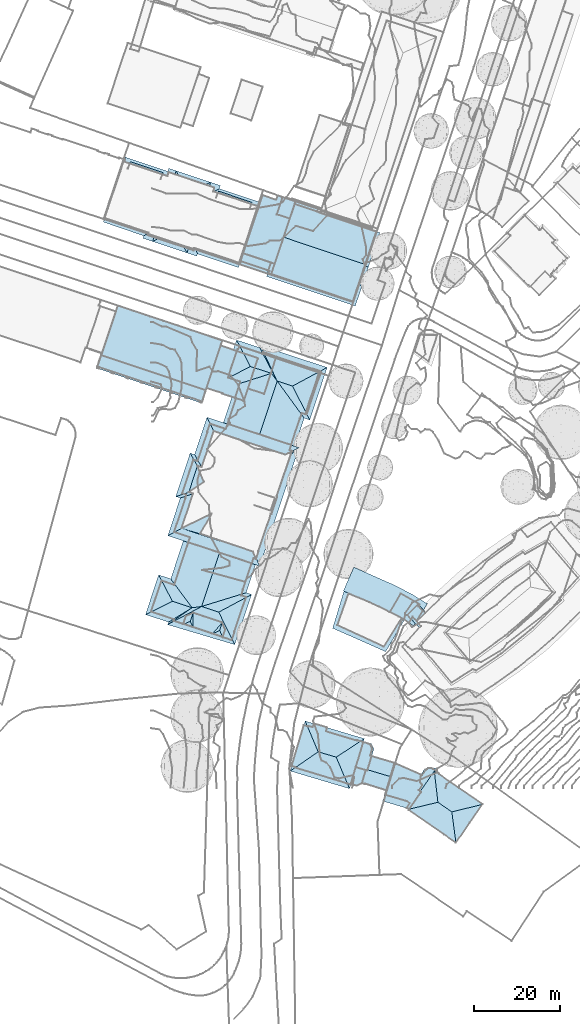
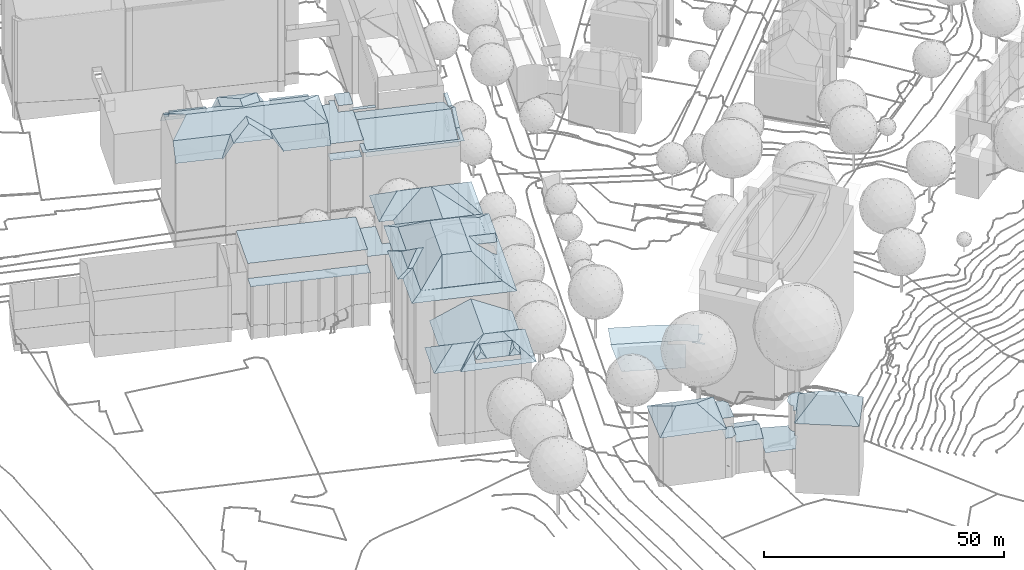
# Not in any storey, part 59 of 494: 22 roofs.
"""IFC2X3 model written with IfcOpenShell, lengths in metres."""

import ifcopenshell
import ifcopenshell.guid

model = None  # the IFC model being written
_history = None  # IfcOwnerHistory: only IFC2X3 demands one
_inside = {}  # id of a spatial element -> (the spatial element, [elements in it])
_under = {}  # id of a project, library or spatial element -> (it, [spatial elements below it])
_declared = {}  # id of a project -> (the project, [libraries it declares])
_typed = {}  # id of a type object -> (the type object, [elements of that type])
_made_of = {}  # id of a material, layer set ... -> (it, [elements and type objects made of it])


def new_model(schema):
    """Start an empty IFC model of exactly this schema.

    Asked for "IFC4X3", IfcOpenShell would pick the latest addendum, in which some entities
    have other attributes; the version numbers below select the first issue.
    IFC2X3 requires an IfcOwnerHistory on every rooted entity: one is made here for all.
    """
    global model, _history
    if schema == "IFC4X3":
        model = ifcopenshell.file(schema_version=(4, 3, 0, 0))
    else:
        model = ifcopenshell.file(schema=schema)
    _inside.clear()
    _under.clear()
    _declared.clear()
    _typed.clear()
    _made_of.clear()
    _history = None
    if model.schema == "IFC2X3":
        org = make("IfcOrganization", Name="unknown")
        user = make(
            "IfcPersonAndOrganization",
            ThePerson=make("IfcPerson", FamilyName="unknown"),
            TheOrganization=org,
        )
        app = make(
            "IfcApplication",
            ApplicationDeveloper=org,
            Version="unknown",
            ApplicationFullName="unknown",
            ApplicationIdentifier="unknown",
        )
        _history = make(
            "IfcOwnerHistory",
            OwningUser=user,
            OwningApplication=app,
            ChangeAction="ADDED",
            CreationDate=0,
        )
    return model


def make(cls, **values):
    """One entity of the class cls with the attributes given. An attribute that is None is left unset."""
    return model.create_entity(
        cls, **{name: value for name, value in values.items() if value is not None}
    )


def rooted(cls, **values):
    """An entity with a GlobalId (a new one), such as an element, a storey or a relation."""
    return make(cls, GlobalId=ifcopenshell.guid.new(), OwnerHistory=_history, **values)


def si_unit(unit_type, name, prefix=None):
    """IfcSIUnit, for example si_unit("LENGTHUNIT", "METRE", prefix="MILLI")."""
    return make("IfcSIUnit", UnitType=unit_type, Prefix=prefix, Name=name)


def assignment(units):
    """IfcUnitAssignment: the units of a project."""
    return None if units is None else make("IfcUnitAssignment", Units=units)


def point(xyz):
    """IfcCartesianPoint."""
    return None if xyz is None else make("IfcCartesianPoint", Coordinates=xyz)


def direction(xyz):
    """IfcDirection."""
    return None if xyz is None else make("IfcDirection", DirectionRatios=xyz)


def frame(location, z_axis=None, x_axis=None):
    """IfcAxis2Placement3D, a coordinate frame: its origin and axes. An axis left out is left unset."""
    return make(
        "IfcAxis2Placement3D",
        Location=point(location),
        Axis=direction(z_axis),
        RefDirection=direction(x_axis),
    )


def origin_with_axes():
    """The frame at (0, 0, 0) with the z axis (0, 0, 1) and the x axis (1, 0, 0) written out."""
    return frame((0.0, 0.0, 0.0), z_axis=(0.0, 0.0, 1.0), x_axis=(1.0, 0.0, 0.0))


def place(relative_to, where):
    """IfcLocalPlacement: puts the frame where relative to a parent placement (None: the world)."""
    return make(
        "IfcLocalPlacement", PlacementRelTo=relative_to, RelativePlacement=where
    )


def context(
    kind, dimensions, precision=None, world=None, true_north=None, identifier=None
):
    """IfcGeometricRepresentationContext, for example the 3D "Model" context."""
    return make(
        "IfcGeometricRepresentationContext",
        ContextIdentifier=identifier,
        ContextType=kind,
        CoordinateSpaceDimension=dimensions,
        Precision=precision,
        WorldCoordinateSystem=world,
        TrueNorth=true_north,
    )


def subcontext(parent, identifier, kind, view, scale=None):
    """IfcGeometricRepresentationSubContext, for example "Body" below "Model"."""
    return make(
        "IfcGeometricRepresentationSubContext",
        ContextIdentifier=identifier,
        ContextType=kind,
        ParentContext=parent,
        TargetScale=scale,
        TargetView=view,
    )


def project(units=None, contexts=None):
    """IfcProject with its units and contexts."""
    return rooted(
        "IfcProject",
        Name="project",
        RepresentationContexts=contexts,
        UnitsInContext=assignment(units),
    )


def faces_of(points, faces, orient=None, outer=None):
    """IfcFace entities. A face is a list of loops; a loop is a list of indices into points, from 0.

    orient and outer hold one flag for each loop. By default every Orientation is true, the
    first loop of a face is its IfcFaceOuterBound and the others are IfcFaceBound.
    """
    made = []
    for i, loops in enumerate(faces):
        bounds = []
        for j, loop in enumerate(loops):
            is_outer = j == 0 if outer is None else outer[i][j]
            bounds.append(
                make(
                    "IfcFaceOuterBound" if is_outer else "IfcFaceBound",
                    Bound=make("IfcPolyLoop", Polygon=[points[k] for k in loop]),
                    Orientation=True if orient is None else orient[i][j],
                )
            )
        made.append(make("IfcFace", Bounds=bounds))
    return made


def faceted_brep(points, faces, orient=None, outer=None, voids=None):
    """IfcFacetedBrep: a solid bounded by flat faces; with voids (closed shells), ...WithVoids."""
    shared = [point(p) for p in points]
    hull = make("IfcClosedShell", CfsFaces=faces_of(shared, faces, orient, outer))
    if voids is None:
        return make("IfcFacetedBrep", Outer=hull)
    return make(
        "IfcFacetedBrepWithVoids",
        Outer=hull,
        Voids=[
            make(cls, CfsFaces=faces_of(shared, fs, o, b)) for cls, fs, o, b in voids
        ],
    )


def shape(context_of_items, identifier, shape_type, items):
    """IfcShapeRepresentation: the items that make up one representation, for example the "Body"."""
    return make(
        "IfcShapeRepresentation",
        ContextOfItems=context_of_items,
        RepresentationIdentifier=identifier,
        RepresentationType=shape_type,
        Items=items,
    )


def made_of(thing, what):
    """Note that an element or type object is made of a material, layer set ...; save() writes the relation."""
    if what is not None:
        _made_of.setdefault(what.id(), (what, []))[1].append(thing)
    return thing


def element(
    cls,
    number,
    at=None,
    inside=None,
    cuts=None,
    type_object=None,
    material=None,
    context=None,
    identifier="Body",
    shape_type=None,
    held_by="IfcProductDefinitionShape",
    body=None,
    shapes=None,
    **own,
):
    """One element of the class cls, such as IfcWall. Its Tag is "e" and its number.

    at: its placement. inside: the storey or other place that contains it. cuts: it is an
    opening in that element (IfcRelVoidsElement). A single representation is given by context,
    identifier, shape_type and body (its items); several are given by shapes. held_by: the class
    of the entity that holds the representations. save() writes the other relations.
    """
    e = rooted(cls, Tag="e%d" % number, ObjectPlacement=at, **own)
    if body is not None:
        shapes = [shape(context, identifier, shape_type, body)]
    if shapes is not None:
        e.Representation = make(held_by, Representations=shapes)
    if inside is not None:
        _inside.setdefault(inside.id(), (inside, []))[1].append(e)
    if cuts is not None:
        rooted(
            "IfcRelVoidsElement", RelatingBuildingElement=cuts, RelatedOpeningElement=e
        )
    if type_object is not None:
        _typed.setdefault(type_object.id(), (type_object, []))[1].append(e)
    return made_of(e, material)


def aggregate(whole, parts):
    """IfcRelAggregates: a whole, such as a stair, and the parts it consists of."""
    return rooted("IfcRelAggregates", RelatingObject=whole, RelatedObjects=parts)


def save(model, path):
    """Write the relations noted so far, then the file.

    IfcRelAggregates (storeys below a building ...), IfcRelContainedInSpatialStructure (elements
    in a storey), IfcRelDefinesByType, IfcRelAssociatesMaterial and IfcRelDeclares: one each for
    every whole, place, type object, material and project.
    """
    for whole, parts in _under.values():
        aggregate(whole, parts)
    for where, things in _inside.values():
        rooted(
            "IfcRelContainedInSpatialStructure",
            RelatedElements=things,
            RelatingStructure=where,
        )
    for kind, things in _typed.values():
        rooted("IfcRelDefinesByType", RelatedObjects=things, RelatingType=kind)
    for what, things in _made_of.values():
        rooted("IfcRelAssociatesMaterial", RelatedObjects=things, RelatingMaterial=what)
    for by, libraries in _declared.values():
        rooted("IfcRelDeclares", RelatingContext=by, RelatedDefinitions=libraries)
    model.write(path)


model = new_model("IFC2X3")

# Units and contexts
model_context = context("Model", 3, precision=1e-05, world=origin_with_axes())
body_context = subcontext(model_context, "Body", "Model", "MODEL_VIEW")
ifc_project = project(units=[si_unit("AREAUNIT", "SQUARE_METRE"), si_unit("LENGTHUNIT", "METRE")], contexts=[model_context])

# Roofs
roof_1_placement = place(None, frame((54.4957320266, 39.4383160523, 525.2974), z_axis=(0.0, 0.0, 1.0), x_axis=(1.0, 0.0, 0.0)))
element("IfcRoof", 1, at=roof_1_placement, Name="Roof 0", ShapeType="NOTDEFINED", context=body_context, shape_type="Brep", body=[
    faceted_brep([(2.0139999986, -1.0263999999, 7.9202), (5.4890000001, -3.1768000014, 7.9202), (8.6550000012, 1.942400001, 7.9202), (4.9690000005, 4.2226000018, 7.9202), (0.7459999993, 6.3768999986, 7.9202), (-8.3770000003, 10.4160000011, 7.9202), (-1.8420000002, 0.9404000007, 7.9202), (-10.8139999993, 4.9120999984, 7.9202)], [[[0, 1, 2]], [[2, 3, 4]], [[4, 5, 6]], [[6, 5, 7]], [[6, 0, 2]], [[2, 4, 6]]]),
])
roof_2_placement = place(None, frame((54.4957320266, 39.4383160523, 525.2974), z_axis=(0.0, 0.0, 1.0), x_axis=(1.0, 0.0, 0.0)))
element("IfcRoof", 2, at=roof_2_placement, Name="Roof 5", ShapeType="NOTDEFINED", context=body_context, shape_type="Brep", body=[
    faceted_brep([(6.8379999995, -3.6270000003, 6.8753), (7.2030000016, -3.2236999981, 6.8753), (6.2659999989, -2.1416000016, 6.8753), (4.9389999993, -1.6484999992, 6.8753), (6.1860000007, -2.0498000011, 6.8753), (8.3150000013, -0.121100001, 6.8753), (5.2989999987, -1.0254000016, 6.8753), (7.6240000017, 0.2754000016, 6.8753), (6.7509999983, 1.5088, 6.8753), (6.6140000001, 1.2694999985, 6.8753)], [[[0, 1, 2]], [[3, 2, 4]], [[2, 3, 0]], [[4, 2, 5]], [[3, 4, 6]], [[7, 5, 8]], [[9, 7, 8]], [[7, 4, 5]]]),
])
roof_3_placement = place(None, frame((42.3237320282, 36.3992160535, 526.0533), z_axis=(0.0, 0.0, 1.0), x_axis=(1.0, 0.0, 0.0)))
element("IfcRoof", 3, at=roof_3_placement, Name="Roof 0", ShapeType="NOTDEFINED", context=body_context, shape_type="Brep", body=[
    faceted_brep([(11.1669999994, -6.1328000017, 6.3514), (15.3329999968, 1.3027999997, 6.3514), (12.1719999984, 3.0390999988, 6.3514), (15.493999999, 1.2109999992, 6.3514), (14.1849999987, 2.0126999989, 6.3514), (12.8949999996, 4.2734999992, 6.3514), (1.8869999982, 9.1464999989, 6.3514), (-1.125, -0.6914000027, 6.3514)], [[[0, 1, 2]], [[0, 3, 1]], [[1, 4, 2]], [[5, 6, 2]], [[2, 7, 0]], [[7, 2, 6]]]),
])
roof_4_placement = place(None, frame((53.3647320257, -2.937683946, 525.6963), z_axis=(0.0, 0.0, 1.0), x_axis=(1.0, 0.0, 0.0)))
element("IfcRoof", 4, at=roof_4_placement, Name="Roof 0", ShapeType="NOTDEFINED", context=body_context, shape_type="Brep", body=[
    faceted_brep([(2.1850000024, 7.3710999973, 6.2424), (2.0590000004, 7.4237999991, 6.2424), (2.0540000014, 7.4081999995, 6.2424), (2.370000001, 7.3007999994, 6.2424), (1.2569999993, 4.2509999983, 6.2424), (8.2440000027, 4.1981999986, 6.2424), (2.7380000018, 7.1503999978, 6.2424), (8.1359999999, 2.9970999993, 6.2424), (8.4959999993, 4.5810999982, 6.2424), (8.7129999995, 4.7412, 6.2424), (8.5769999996, 4.5449000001, 6.2424), (8.6270000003, 2.25, 6.2424), (7.7939999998, 1.0429999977, 6.2424), (0.1710000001, 1.0819999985, 6.2424), (-0.5709999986, -1.4111000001, 6.2424), (0.3020000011, 1.0419999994, 6.2424), (5.6280000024, -3.2568000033, 6.2424), (8.3370000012, 0.6679999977, 6.2424)], [[[0, 1, 2]], [[3, 0, 4]], [[5, 6, 4]], [[5, 4, 7]], [[5, 8, 6]], [[6, 8, 9]], [[3, 4, 6]], [[8, 10, 9]], [[11, 7, 12]], [[13, 14, 15]], [[12, 15, 14]], [[15, 12, 4]], [[12, 14, 16]], [[12, 16, 17]], [[12, 7, 4]]]),
])
roof_5_placement = place(None, frame((53.3647320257, -2.937683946, 525.6963), z_axis=(0.0, 0.0, 1.0), x_axis=(1.0, 0.0, 0.0)))
element("IfcRoof", 5, at=roof_5_placement, Name="Roof 1", ShapeType="NOTDEFINED", context=body_context, shape_type="Brep", body=[
    faceted_brep([(7.9890000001, 0.6044999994, 12.8757), (11.3960000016, 5.5331999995, 12.8807), (7.4460000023, 0.9794999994, 12.8597), (8.3260000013, 2.2528999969, 12.8597), (7.8790000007, 2.9335999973, 12.8597), (8.1480000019, 3.1327999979, 12.8617), (8.3949999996, 4.4287, 12.8617), (8.001000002, 4.2831999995, 12.8597), (9.4730000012, 5.7997999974, 12.8637), (9.0380000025, 5.8593999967, 12.8597), (10.3460000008, 6.4433999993, 12.8597), (11.6520000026, 6.2187999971, 12.8597), (12.4620000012, 5.2694999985, 12.8597), (5.2390000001, -3.376000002, 12.8917), (5.4450000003, -3.5175999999, 12.8917), (5.6040000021, -3.2881000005, 13.1417), (13.6520000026, -9.1904000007, 12.8917), (12.2369999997, -1.692400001, 17.6953), (15.4539999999, -3.9170000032, 17.6953), (12.4990000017, 4.7714999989, 12.8757), (12.4780000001, 5.056599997, 12.8667), (22.5720000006, -2.1904000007, 12.8917), (19.6229999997, -6.4560000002, 12.8767), (16.4140000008, -11.0986000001, 12.8817)], [[[0, 1, 2]], [[2, 1, 3]], [[4, 3, 5]], [[3, 1, 5]], [[4, 5, 6]], [[6, 7, 4]], [[1, 6, 5]], [[7, 6, 8]], [[7, 8, 9]], [[8, 6, 1]], [[9, 8, 10]], [[1, 10, 8]], [[11, 10, 1]], [[1, 12, 11]], [[13, 14, 15]], [[15, 14, 16]], [[17, 16, 18]], [[16, 17, 15]], [[18, 19, 17]], [[1, 17, 19]], [[1, 20, 12]], [[20, 1, 19]], [[0, 17, 1]], [[13, 15, 0]], [[17, 0, 15]], [[21, 19, 18]], [[21, 18, 22]], [[18, 23, 22]], [[23, 18, 16]]]),
])
roof_6_placement = place(None, frame((31.7207320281, 3.7234160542, 525.7003), z_axis=(0.0, 0.0, 1.0), x_axis=(1.0, 0.0, 0.0)))
element("IfcRoof", 6, at=roof_6_placement, Name="Roof 0", ShapeType="NOTDEFINED", context=body_context, shape_type="Brep", body=[
    faceted_brep([(22.9009999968, -2.4101000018, 9.5671), (16.9299999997, -4.1279000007, 8.1432), (21.9459999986, -5.6191000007, 8.1432), (17.5350000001, -1.0693000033, 9.4621), (17.6049999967, -0.8339000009, 9.5671), (17.1909999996, -0.9677000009, 9.4621), (16.3049999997, -3.9414000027, 8.1432), (18.1999999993, 2.3964999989, 8.2382), (18.5359999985, 2.2949999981, 8.2382), (18.2679999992, 2.6191999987, 8.1432), (23.8979999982, 0.9433999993, 8.1432), (23.8279999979, 0.7079999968, 8.2432), (17.7159999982, -4.3593000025, 8.0932)], [[[0, 1, 2]], [[1, 0, 3]], [[4, 3, 0]], [[5, 6, 3]], [[3, 6, 1]], [[7, 8, 9]], [[9, 8, 10]], [[4, 0, 11]], [[10, 8, 11]], [[11, 8, 4]], [[12, 1, 6]]]),
])
roof_7_placement = place(None, frame((31.7207320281, 3.7234160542, 525.7003), z_axis=(0.0, 0.0, 1.0), x_axis=(1.0, 0.0, 0.0)))
element("IfcRoof", 7, at=roof_7_placement, Name="Roof 1", ShapeType="NOTDEFINED", context=body_context, shape_type="Brep", body=[
    faceted_brep([(0.8969999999, -0.2744000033, 13.9047), (10.3129999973, 2.0976999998, 16.5744), (6.1270000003, 3.3437999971, 16.5744), (12.8990000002, -4.0312000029, 13.8077), (-0.3330000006, -1.1201000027, 13.2777), (13.3949999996, -5.2070000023, 13.2777), (0.0, 0.0, 13.2777), (3.1169999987, 10.4726999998, 13.2777), (2.8209999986, 9.4785999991, 13.2777), (3.6419999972, 9.2285999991, 13.8527), (16.8459999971, 6.3867999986, 13.2777), (8.2159999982, 8.9550999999, 13.2777), (15.9059999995, 5.7695999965, 13.7517), (5.1600000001, 9.8642999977, 13.2777), (16.5989999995, 5.5585999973, 13.2777), (14.8609999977, -0.2773000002, 13.2777), (13.6739999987, -4.2675000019, 13.2777)], [[[0, 1, 2]], [[0, 3, 1]], [[4, 3, 0]], [[4, 5, 3]], [[2, 6, 0]], [[4, 0, 6]], [[7, 8, 9]], [[9, 6, 2]], [[6, 9, 8]], [[10, 11, 12]], [[1, 12, 11]], [[11, 2, 1]], [[13, 7, 9]], [[2, 11, 9]], [[9, 11, 13]], [[14, 10, 12]], [[1, 15, 14]], [[1, 14, 12]], [[15, 1, 16]], [[3, 5, 16]], [[3, 16, 1]]]),
])
roof_8_placement = place(None, frame((31.7207320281, 3.7234160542, 525.7003), z_axis=(0.0, 0.0, 1.0), x_axis=(1.0, 0.0, 0.0)))
element("IfcRoof", 8, at=roof_8_placement, Name="Roof 2", ShapeType="NOTDEFINED", context=body_context, shape_type="Brep", body=[
    faceted_brep([(18.4469999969, 5.2480999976, 12.4318), (16.6649999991, 5.7783999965, 12.4318), (14.8619999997, -0.2744000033, 12.4318), (19.0549999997, 4.0380999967, 12.4318), (17.5350000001, -1.0693000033, 12.4318)], [[[0, 1, 2]], [[3, 0, 2]], [[4, 3, 2]]]),
])
roof_9_placement = place(None, frame((31.7207320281, 3.7234160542, 525.7003), z_axis=(0.0, 0.0, 1.0), x_axis=(1.0, 0.0, 0.0)))
element("IfcRoof", 9, at=roof_9_placement, Name="Roof 3", ShapeType="NOTDEFINED", context=body_context, shape_type="Brep", body=[
    faceted_brep([(17.1909999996, -0.9677000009, 10.14), (14.8619999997, -0.2744000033, 10.14), (15.0709999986, -4.5537, 10.14), (16.3029999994, -3.9492000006, 10.14), (13.7099999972, -4.1484000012, 10.14)], [[[0, 1, 2]], [[0, 2, 3]], [[2, 1, 4]]]),
])
roof_10_placement = place(None, frame((-11.7152679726, 130.4334160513, 524.4966), z_axis=(0.0, 0.0, 1.0), x_axis=(1.0, 0.0, 0.0)))
element("IfcRoof", 10, at=roof_10_placement, Name="Roof 0", ShapeType="NOTDEFINED", context=body_context, shape_type="Brep", body=[
    faceted_brep([(12.4450000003, -4.4452999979, 26.7594), (11.1840000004, -5.0771999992, 26.3285), (18.4509999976, -6.4442999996, 26.7634), (16.307, -2.5146999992, 28.0783), (19.1609999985, -7.745099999, 26.3285), (19.4820000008, -6.7870999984, 26.3285), (20.2579999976, -4.4668000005, 26.3285), (17.1799999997, 0.0956999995, 28.0783), (12.2809999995, -1.7969000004, 26.3285), (5.9930000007, 5.7148000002, 29.0072), (3.9809999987, 11.8965000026, 26.3295), (3.756000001, 11.2226999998, 26.3825), (29.6829999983, -2.2128999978, 29.0072), (35.3229999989, 1.4081999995, 26.3294), (18.3200000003, 3.5, 28.0783), (23.5429999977, 5.3516000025, 26.3285), (15.5659999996, 8.0205000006, 26.3295), (32.0379999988, -8.4091999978, 26.3294), (0.6959999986, 2.0800999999, 26.3295), (23.3889999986, 8.0644000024, 26.7314), (24.6389999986, 8.6308999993, 26.3285), (16.6629999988, 11.3007999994, 26.3285), (17.2430000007, 10.1338, 26.7264), (19.2129999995, 6.1709000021, 28.0783), (16.3709999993, 10.4277000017, 26.3285), (24.3420000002, 7.7432000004, 26.3285), (26.3079999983, 6.1357000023, 25.4775), (34.0810000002, 3.5381000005, 25.4755), (26.4560000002, 6.5762000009, 25.3286), (33.6609999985, 2.2831999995, 25.8985), (25.8889999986, 4.8838, 25.8985), (34.2269999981, 3.9766000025, 25.3285), (5.8859999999, 12.9365000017, 25.4226), (5.4809999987, 11.7266000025, 25.8825), (13.0409999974, 9.1963, 25.8825), (6.0429999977, 13.4062000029, 25.2446), (13.4479999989, 10.4141000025, 25.4196), (13.6019999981, 10.876000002, 25.2446), (26.3079999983, 6.1357000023, 23.8247), (34.0810000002, 3.5381000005, 23.8187), (34.0830000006, 3.5439000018, 23.8187), (0.199000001, 0.5956999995, 24.1287), (6.1860000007, -1.7313999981, 23.8377), (9.1479999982, -3.7890999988, 22.4928), (10.2540000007, -3.0858999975, 23.8477), (0.0, 0.0, 23.3118), (-0.199000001, -0.5966999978, 22.4928), (21.1119999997, -6.6963, 23.8757), (21.4120000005, -8.498999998, 22.4928), (21.5940000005, -7.9540999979, 22.4928), (26.6510000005, 7.1562000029, 22.4928), (26.8920000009, 7.8769000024, 22.4928), (25.4089999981, 6.4354999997, 24.0257), (25.9470000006, 5.0576000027, 25.6395), (26.3079999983, 6.1357000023, 24.0237), (34.0810000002, 3.5381000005, 24.0177), (33.7190000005, 2.4560000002, 25.6405), (36.1789999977, 3.9678000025, 22.4928), (35.930999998, 4.0507999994, 22.4928), (5.5029999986, 11.7910000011, 25.7855), (10.3200000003, 11.4570000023, 24.0617), (13.4479999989, 10.4141000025, 24.0577), (14.8519999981, 10.6201000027, 23.1458), (13.1009999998, 9.375, 25.6145), (14.7060000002, 11.1533000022, 22.4928), (5.8859999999, 12.9365000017, 24.1217), (4.5089999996, 13.4775000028, 24.0337), (5.5419999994, 11.9092000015, 25.6126), (4.6490000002, 13.8965000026, 23.3738), (4.8369999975, 14.4560000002, 22.4929), (31.3609999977, -10.4316000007, 23.4897), (31.1229999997, -11.1415999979, 22.4928), (14.9459999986, 11.875, 22.4928), (8.9639999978, -4.3339999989, 22.4928), (33.6609999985, 2.2831999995, 25.6985), (25.8889999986, 4.8838, 25.6985)], [[[0, 1, 2]], [[2, 3, 0]], [[4, 2, 1]], [[4, 5, 2]], [[2, 5, 6]], [[7, 3, 2]], [[7, 2, 6]], [[7, 8, 3]], [[3, 8, 0]], [[0, 8, 1]], [[9, 10, 11]], [[12, 13, 14]], [[14, 13, 15]], [[16, 10, 14]], [[14, 9, 12]], [[9, 14, 10]], [[17, 13, 12]], [[9, 18, 7]], [[7, 18, 8]], [[6, 17, 7]], [[7, 12, 9]], [[12, 7, 17]], [[19, 20, 21]], [[19, 22, 23]], [[22, 19, 21]], [[21, 24, 22]], [[22, 24, 16]], [[16, 14, 23]], [[16, 23, 22]], [[23, 14, 19]], [[19, 14, 15]], [[25, 20, 19]], [[25, 19, 15]], [[26, 27, 28]], [[29, 26, 30]], [[28, 27, 31]], [[27, 26, 29]], [[32, 33, 34]], [[35, 32, 36]], [[35, 36, 37]], [[36, 32, 34]], [[38, 39, 40]], [[18, 41, 42]], [[43, 42, 41]], [[44, 8, 42]], [[42, 43, 44]], [[18, 42, 8]], [[41, 45, 43]], [[43, 45, 46]], [[5, 4, 47]], [[6, 5, 47]], [[47, 48, 49]], [[48, 47, 4]], [[50, 51, 52]], [[52, 51, 20]], [[52, 25, 15]], [[25, 52, 20]], [[15, 30, 53]], [[30, 15, 13]], [[15, 53, 52]], [[52, 54, 50]], [[54, 52, 53]], [[55, 50, 54]], [[56, 29, 13]], [[13, 29, 30]], [[56, 13, 55]], [[55, 57, 58]], [[57, 55, 13]], [[55, 58, 50]], [[10, 33, 59]], [[60, 61, 62]], [[33, 10, 34]], [[34, 16, 63]], [[16, 34, 10]], [[62, 64, 60]], [[61, 16, 62]], [[61, 63, 16]], [[64, 65, 60]], [[65, 64, 66]], [[65, 66, 67]], [[10, 67, 66]], [[59, 67, 10]], [[66, 64, 68]], [[68, 64, 69]], [[70, 49, 71]], [[47, 70, 17]], [[70, 47, 49]], [[47, 17, 6]], [[24, 21, 62]], [[16, 24, 62]], [[62, 72, 64]], [[72, 62, 21]], [[44, 43, 1]], [[1, 43, 73]], [[1, 8, 44]], [[74, 38, 75]], [[39, 38, 74]]]),
])
roof_11_placement = place(None, frame((19.7027320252, 120.1717160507, 524.8305), z_axis=(0.0, 0.0, 1.0), x_axis=(1.0, 0.0, 0.0)))
element("IfcRoof", 11, at=roof_11_placement, Name="Roof 0", ShapeType="NOTDEFINED", context=body_context, shape_type="Brep", body=[
    faceted_brep([(17.9890000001, 12.0303000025, 17.6963), (18.2590000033, 12.8330000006, 17.6963), (12.7290000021, 13.7920000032, 17.6963), (12.9979999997, 14.5928000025, 17.6963)], [[[0, 1, 2]], [[3, 2, 1]]]),
])
roof_12_placement = place(None, frame((19.7027320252, 120.1717160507, 524.8305), z_axis=(0.0, 0.0, 1.0), x_axis=(1.0, 0.0, 0.0)))
element("IfcRoof", 12, at=roof_12_placement, Name="Roof 1", ShapeType="NOTDEFINED", context=body_context, shape_type="Brep", body=[
    faceted_brep([(6.4409999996, -2.1562999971, 17.6973), (0.7960000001, 2.3818000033, 17.6973), (0.0, 0.0, 17.6973), (7.2390000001, 0.2246000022, 17.6973)], [[[0, 1, 2]], [[1, 0, 3]]]),
])
roof_13_placement = place(None, frame((19.7027320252, 120.1717160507, 524.8305), z_axis=(0.0, 0.0, 1.0), x_axis=(1.0, 0.0, 0.0)))
element("IfcRoof", 13, at=roof_13_placement, Name="Roof 2", ShapeType="NOTDEFINED", context=body_context, shape_type="Brep", body=[
    faceted_brep([(9.9840000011, 15.6025000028, 21.732), (8.5840000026, 11.4180000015, 21.732), (12.9979999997, 14.5928000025, 21.732), (11.5980000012, 10.4101000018, 21.7319)], [[[0, 1, 2]], [[2, 1, 3]]]),
])
roof_14_placement = place(None, frame((19.7027320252, 120.1717160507, 524.8305), z_axis=(0.0, 0.0, 1.0), x_axis=(1.0, 0.0, 0.0)))
element("IfcRoof", 14, at=roof_14_placement, Name="Roof 3", ShapeType="NOTDEFINED", context=body_context, shape_type="Brep", body=[
    faceted_brep([(7.2980000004, -2.4423999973, 19.2962), (6.1850000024, -2.9208999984, 19.2962), (26.75, -9.8017999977, 19.2961), (8.0940000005, -0.0605999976, 19.2962), (7.2390000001, 0.2246000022, 19.2962), (26.1960000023, -8.7655999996, 19.2961), (28.3280000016, -5.0849999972, 19.2961), (27.5190000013, -4.8125, 19.2961), (29.7760000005, -0.7577999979, 21.3959), (28.9680000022, -0.4882999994, 21.396), (10.1730000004, 6.1523000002, 20.82), (30.1030000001, 2.9043000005, 19.3042), (10.6400000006, 7.5488000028, 20.1371), (10.7770000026, 7.9590000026, 19.9371), (12.7290000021, 13.7920000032, 17.0864), (31.6280000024, 7.4668000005, 17.0864), (30.2410000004, 3.317400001, 19.1032), (29.563000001, 1.2920000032, 20.0981), (29.0730000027, -0.1728999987, 20.82), (26.1960000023, -8.7655999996, 17.5353), (9.4000000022, 3.8418000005, 19.9371), (7.2980000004, -2.4423999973, 17.5353), (9.575000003, 4.3652000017, 20.1371), (8.0940000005, -0.0605999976, 20.1371), (0.7960000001, 2.3818000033, 20.1371), (9.75, 4.8877000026, 20.1371), (10.5040000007, 7.1396000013, 20.1371), (8.5840000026, 11.4179000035, 20.1371), (11.5980000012, 10.4101000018, 20.1371), (10.6520000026, 15.1377000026, 20.1371), (10.6570000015, 15.1513000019, 20.1371), (9.9170000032, 15.4023000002, 20.1371), (9.9840000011, 15.6025000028, 20.1371), (8.8360000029, 15.9873000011, 20.1371), (8.4350000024, 14.7881000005, 20.1371), (5.3000000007, 15.8369000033, 20.1371), (30.2420000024, 2.8574000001, 19.3032), (30.9110000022, 2.6328000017, 19.2962), (31.7390000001, 7.4297000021, 19.2962), (32.438000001, 7.1972000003, 19.2962), (31.7660000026, 7.4209000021, 19.2962), (31.6280000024, 7.4668000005, 19.2962)], [[[0, 1, 2]], [[1, 3, 4]], [[3, 1, 0]], [[5, 2, 6]], [[2, 5, 0]], [[7, 5, 6]], [[7, 6, 8]], [[7, 8, 9]], [[10, 11, 12]], [[13, 12, 11]], [[14, 13, 11]], [[15, 14, 16]], [[11, 16, 14]], [[17, 11, 10]], [[10, 18, 17]], [[19, 20, 21]], [[20, 19, 18]], [[22, 20, 18]], [[10, 22, 18]], [[23, 22, 24]], [[25, 26, 27]], [[22, 25, 27]], [[22, 27, 24]], [[27, 26, 12]], [[28, 27, 12]], [[29, 30, 31]], [[31, 32, 33]], [[32, 31, 30]], [[31, 34, 27]], [[24, 34, 35]], [[34, 24, 27]], [[33, 34, 31]], [[9, 8, 36]], [[36, 11, 9]], [[37, 36, 8]], [[36, 38, 11]], [[39, 36, 37]], [[38, 36, 40]], [[41, 11, 38]], [[40, 36, 39]]]),
])
roof_15_placement = place(None, frame((-58.7722679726, 116.2176160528, 523.7797), z_axis=(0.0, 0.0, 1.0), x_axis=(1.0, 0.0, 0.0)))
element("IfcRoof", 15, at=roof_15_placement, Name="Roof 0", ShapeType="NOTDEFINED", context=body_context, shape_type="Brep", body=[
    faceted_brep([(51.870000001, -6.3388999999, 16.6374), (50.2129999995, -5.7881000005, 16.6374), (46.370000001, -17.2959000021, 16.6373), (57.6279999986, -8.2578000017, 16.6373), (60.3499999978, -9.1651000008, 16.6373), (70.5830000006, -25.378899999, 16.6373), (63.7219999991, -10.2890999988, 16.6373), (74.4210000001, -13.8662, 16.6373), (67.6979999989, -11.6132999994, 16.6373)], [[[0, 1, 2]], [[3, 0, 2]], [[2, 4, 3]], [[4, 5, 6]], [[2, 5, 4]], [[7, 8, 5]], [[5, 8, 6]]]),
])
roof_16_placement = place(None, frame((-58.7722679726, 116.2176160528, 523.7797), z_axis=(0.0, 0.0, 1.0), x_axis=(1.0, 0.0, 0.0)))
element("IfcRoof", 16, at=roof_16_placement, Name="Roof 1", ShapeType="NOTDEFINED", context=body_context, shape_type="Brep", body=[
    faceted_brep([(74.0280000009, -15.0419999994, 14.5215), (75.7329999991, -22.4776000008, 14.5215), (77.7799999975, -16.3203000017, 14.5215), (70.745000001, -24.8584000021, 14.5215), (77.3590000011, -27.1933999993, 14.5215), (78.6090000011, -23.432599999, 14.5215), (70.6970000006, -25.0029999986, 14.5215)], [[[0, 1, 2]], [[1, 0, 3]], [[1, 4, 5]], [[4, 1, 6]], [[6, 1, 3]]]),
])
roof_17_placement = place(None, frame((-58.7722679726, 116.2176160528, 523.7797), z_axis=(0.0, 0.0, 1.0), x_axis=(1.0, 0.0, 0.0)))
element("IfcRoof", 17, at=roof_17_placement, Name="Roof 2", ShapeType="NOTDEFINED", context=body_context, shape_type="Brep", body=[
    faceted_brep([(69.5889999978, -28.3418000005, 12.8257), (69.5979999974, -28.3007999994, 12.8257), (45.379999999, -20.2608000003, 12.8257), (69.699000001, -27.9970999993, 12.8257), (46.370000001, -17.2959000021, 12.8257), (70.5830000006, -25.378899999, 12.8257)], [[[0, 1, 2]], [[3, 4, 2]], [[4, 3, 5]], [[2, 1, 3]]]),
])
roof_18_placement = place(None, frame((6.2087320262, 58.8602160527, 526.0234), z_axis=(0.0, 0.0, 1.0), x_axis=(1.0, 0.0, 0.0)))
element("IfcRoof", 18, at=roof_18_placement, Name="Roof 0", ShapeType="NOTDEFINED", context=body_context, shape_type="Brep", body=[
    faceted_brep([(-3.2650000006, -22.3194000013, 19.1581), (-1.0119999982, -21.7675999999, 19.998), (-1.7609999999, -21.5186000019, 20.0), (0.6720000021, -21.3555000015, 20.626), (0.9900000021, -20.3936000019, 21.3189), (4.8559999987, -20.3311000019, 22.1868), (8.5930000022, -19.4160999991, 23.5807), (2.6530000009, -19.6035999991, 22.1868), (4.6380000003, -18.1103999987, 23.5807), (1.7400000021, -22.6172000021, 19.979), (0.3980000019, -22.1845999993, 20.001), (3.0789999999, -23.0566999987, 19.951), (4.4160000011, -23.501000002, 19.92), (5.7530000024, -23.9492999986, 19.886), (9.5240000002, -25.2177999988, 19.788), (7.6350000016, -24.5918000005, 19.831), (12.2950000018, -26.9620000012, 19.1581), (11.7019999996, -25.7529999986, 19.867), (10.0930000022, -23.496100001, 21.0859), (9.4129999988, -21.8370000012, 22.0868), (14.936999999, -16.0245000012, 19.906), (16.2270000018, -15.3339999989, 19.1581), (14.4059999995, -15.7705999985, 19.853), (13.9200000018, -15.2432000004, 19.628), (14.9699999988, -14.9200000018, 19.1811), (2.4169999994, -18.4092000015, 22.5738), (-1.6459999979, -12.9131000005, 19.787), (8.7470000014, -5.6719000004, 23.5807), (-2.5300000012, -11.7188000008, 19.1811), (1.550999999, -3.2969000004, 19.7971), (0.379999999, -2.9092000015, 19.1811), (16.2789999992, -8.1601999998, 19.6201), (17.1130000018, -8.4365999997, 19.1811), (-1.7129999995, -21.251000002, 20.091), (-1.9459999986, -21.067400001, 19.832), (-3.0179999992, -21.7206999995, 19.1581), (-8.379999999, -20.009800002, 19.1581), (-2.1369999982, -16.9043000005, 22.5738), (-4.6160000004, -12.1757999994, 19.95), (-5.3429999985, -10.7890999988, 19.1811), (-7.0720000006, -19.3643000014, 19.872)], [[[0, 1, 2]], [[2, 3, 4]], [[3, 2, 1]], [[5, 6, 7]], [[4, 7, 8]], [[8, 7, 6]], [[4, 8, 2]], [[0, 9, 10]], [[9, 0, 11]], [[12, 11, 0]], [[0, 13, 12]], [[1, 10, 3]], [[10, 1, 0]], [[14, 15, 16]], [[16, 17, 14]], [[15, 13, 16]], [[18, 14, 17]], [[5, 19, 6]], [[18, 17, 19]], [[19, 17, 6]], [[16, 13, 0]], [[20, 21, 22]], [[22, 8, 6]], [[22, 6, 20]], [[17, 16, 20]], [[17, 20, 6]], [[20, 16, 21]], [[23, 8, 22]], [[21, 24, 23]], [[21, 23, 22]], [[25, 8, 26]], [[27, 28, 26]], [[26, 8, 27]], [[29, 30, 28]], [[27, 29, 28]], [[31, 24, 32]], [[23, 31, 27]], [[23, 24, 31]], [[8, 23, 27]], [[33, 25, 34]], [[35, 0, 33]], [[35, 33, 34]], [[0, 2, 33]], [[33, 8, 25]], [[8, 33, 2]], [[34, 25, 36]], [[34, 36, 35]], [[25, 26, 37]], [[37, 26, 38]], [[28, 39, 38]], [[28, 38, 26]], [[25, 37, 40]], [[40, 36, 25]], [[38, 39, 40]], [[38, 40, 37]], [[40, 39, 36]]]),
])
roof_19_placement = place(None, frame((6.2087320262, 58.8602160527, 526.0234), z_axis=(0.0, 0.0, 1.0), x_axis=(1.0, 0.0, 0.0)))
element("IfcRoof", 19, at=roof_19_placement, Name="Roof 1", ShapeType="NOTDEFINED", context=body_context, shape_type="Brep", body=[
    faceted_brep([(9.4129999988, -21.8370000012, 22.5808), (8.8170000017, -23.6446000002, 22.0588), (10.0930000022, -23.496100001, 21.9128), (9.5069999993, -25.2696000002, 20.9989), (9.5240000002, -25.2177999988, 21.0259), (9.4780000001, -25.2021999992, 21.0429), (7.1040000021, -24.4756000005, 20.9989), (2.6240000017, -22.996100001, 20.9979), (2.6530000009, -19.6035999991, 22.5808), (2.0100000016, -21.5489000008, 22.0588), (0.4750000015, -22.2109999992, 21.0629), (0.375, -22.253899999, 20.9979), (0.9900000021, -20.3936000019, 21.9578), (0.3980000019, -22.1845999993, 21.0339)], [[[0, 1, 2]], [[3, 4, 5]], [[5, 2, 1]], [[2, 5, 4]], [[1, 0, 6]], [[5, 1, 6]], [[3, 5, 6]], [[7, 8, 9]], [[10, 11, 7]], [[7, 9, 10]], [[6, 0, 8]], [[8, 7, 6]], [[9, 8, 12]], [[9, 12, 10]], [[10, 13, 11]], [[13, 10, 12]]]),
])
roof_20_placement = place(None, frame((6.2087320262, 58.8602160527, 526.0234), z_axis=(0.0, 0.0, 1.0), x_axis=(1.0, 0.0, 0.0)))
element("IfcRoof", 20, at=roof_20_placement, Name="Roof 2", ShapeType="NOTDEFINED", context=body_context, shape_type="Brep", body=[
    faceted_brep([(1.9640000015, 17.4433000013, 24.1327), (2.8909999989, 15.8125, 24.7266), (3.0100000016, 17.0965999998, 24.1327), (3.7670000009, 15.7353000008, 24.6306), (3.6620000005, 14.4540999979, 25.2216), (4.6649999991, 14.121100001, 25.2216), (6.6330000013, 24.1620999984, 24.6646), (5.8650000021, 25.7362999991, 24.1327), (7.438000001, 22.5135999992, 25.2216), (0.4409999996, 7.9510999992, 24.7866), (-1.3669999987, 7.3563999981, 24.1327), (1.6449999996, 8.3486000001, 25.2215), (5.2030000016, 10.7382000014, 27.6903), (10.6730000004, 24.1484000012, 24.1327), (25.5760000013, 17.8574000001, 24.6836), (25.4169999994, 19.2793000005, 24.1326), (27.199000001, 18.6904000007, 24.1326), (23.9919999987, 17.0458999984, 25.2215), (15.5450000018, 19.7762999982, 25.2215), (2.6490000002, 8.0155999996, 25.2215), (1.0170000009, 7.4637999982, 24.6236), (-0.3209999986, 7.0117000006, 24.1327), (-1.7089999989, -0.9200000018, 24.6416), (0.0, 0.0, 25.2215), (-3.2069999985, -1.7247000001, 24.1326), (16.2789999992, -8.1601999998, 24.1326), (17.2919999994, -7.0175999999, 24.7106), (1.550999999, -3.2969000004, 24.1326), (18.1280000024, -8.7714999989, 24.1326), (16.5540000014, -5.4688000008, 25.2215), (4.3040000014, -1.2989000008, 25.2215), (8.0500000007, -2.5713, 25.2215), (12.0729999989, -3.9052999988, 25.2215), (7.0269999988, 3.4169999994, 29.8731)], [[[0, 1, 2]], [[2, 1, 3]], [[3, 4, 5]], [[4, 3, 1]], [[6, 7, 2]], [[8, 6, 2]], [[3, 5, 8]], [[3, 8, 2]], [[1, 9, 4]], [[10, 1, 0]], [[4, 9, 11]], [[9, 1, 10]], [[4, 11, 12]], [[13, 6, 14]], [[13, 7, 6]], [[6, 8, 14]], [[14, 15, 13]], [[16, 15, 14]], [[14, 8, 17]], [[17, 8, 18]], [[19, 11, 20]], [[20, 11, 9]], [[9, 10, 21]], [[9, 21, 20]], [[20, 21, 22]], [[19, 20, 23]], [[20, 22, 23]], [[22, 21, 24]], [[25, 26, 27]], [[25, 28, 26]], [[26, 29, 23]], [[22, 27, 26]], [[24, 27, 22]], [[22, 26, 23]], [[30, 23, 31]], [[23, 32, 31]], [[32, 23, 29]], [[33, 23, 30]]]),
])
roof_21_placement = place(None, frame((6.2087320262, 58.8602160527, 526.0234), z_axis=(0.0, 0.0, 1.0), x_axis=(1.0, 0.0, 0.0)))
element("IfcRoof", 21, at=roof_21_placement, Name="Roof 3", ShapeType="NOTDEFINED", context=body_context, shape_type="Brep", body=[
    faceted_brep([(17.6730000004, 8.3104999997, 27.9653), (15.7650000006, 7.25, 29.2082), (21.125, 5.4785000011, 29.2081), (21.6290000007, 7.0047999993, 27.9653), (20.6539999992, 4.0498000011, 27.9653), (16.6970000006, 5.3553999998, 27.9653), (19.7930000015, 4.3339000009, 25.2215), (17.2919999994, -7.0175999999, 24.7106), (20.6539999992, 4.0498000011, 24.8306), (16.5540000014, -5.4688000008, 25.2215), (18.1280000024, -8.7714999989, 24.1326), (21.6290000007, 7.0047999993, 24.8316), (27.199000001, 18.6904000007, 24.1326), (25.5749999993, 17.8574000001, 24.6836), (20.7690000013, 7.2879999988, 25.2215), (23.9919999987, 17.0458999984, 25.2215), (16.9880000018, 13.4697000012, 29.8731), (15.5450000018, 19.7762999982, 25.2215), (11.0, 15.4461999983, 29.8731), (7.0269999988, 3.4169999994, 29.8731), (13.0140000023, 1.4393999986, 29.8731), (2.6490000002, 8.0155999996, 25.2215), (0.0, 0.0, 25.2215), (6.5320000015, 10.2998000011, 27.6903), (7.438000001, 22.5135999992, 25.2216), (4.6649999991, 14.121100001, 25.2216), (1.6449999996, 8.3486000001, 25.2215), (5.2030000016, 10.7382000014, 27.6903), (8.0500000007, -2.5713, 25.2215), (4.3040000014, -1.2989000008, 25.2215), (12.0729999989, -3.9052999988, 25.2215), (16.9210000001, 5.2811999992, 27.7653), (17.8980000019, 8.2362999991, 27.7653), (3.6620000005, 14.4540999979, 25.2216)], [[[0, 1, 2]], [[2, 3, 0]], [[4, 2, 5]], [[1, 5, 2]], [[6, 7, 8]], [[6, 9, 7]], [[7, 10, 8]], [[11, 8, 12]], [[12, 8, 10]], [[11, 12, 13]], [[14, 11, 15]], [[15, 11, 13]], [[16, 15, 17]], [[16, 17, 18]], [[19, 20, 16]], [[16, 18, 19]], [[21, 22, 23]], [[23, 22, 19]], [[23, 18, 24]], [[18, 23, 19]], [[24, 25, 23]], [[26, 21, 27]], [[23, 27, 21]], [[24, 18, 17]], [[28, 19, 29]], [[9, 20, 30]], [[6, 31, 9]], [[20, 5, 1]], [[5, 20, 31]], [[20, 9, 31]], [[32, 14, 15]], [[0, 32, 16]], [[0, 16, 1]], [[15, 16, 32]], [[1, 16, 20]], [[25, 33, 27]], [[27, 23, 25]], [[28, 30, 20]], [[20, 19, 28]]]),
])
roof_22_placement = place(None, frame((6.2087320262, 58.8602160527, 526.0234), z_axis=(0.0, 0.0, 1.0), x_axis=(1.0, 0.0, 0.0)))
element("IfcRoof", 22, at=roof_22_placement, Name="Roof 4", ShapeType="NOTDEFINED", context=body_context, shape_type="Brep", body=[
    faceted_brep([(10.6730000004, 24.1484000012, 19.1801), (18.0610000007, 21.7089000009, 23.3477), (20.7070000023, 35.8797999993, 22.3238), (9.2910000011, 23.2919000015, 18.6192), (10.2760000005, 22.9521000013, 19.1771), (12.574000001, 33.2802000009, 18.6192), (22.1440000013, 34.1317999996, 23.3477), (20.7400000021, 35.9813999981, 22.3238), (32.2360000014, 37.2274999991, 18.6192), (30.8640000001, 36.8066000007, 19.2621), (31.9759999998, 36.4354999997, 18.6192), (25.4169999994, 19.2793000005, 19.0991), (28.3969999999, 25.5478000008, 18.6192), (25.5870000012, 17.8915999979, 18.7722), (25.0179999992, 18.0819999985, 19.1011), (25.4129999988, 17.375, 18.7752), (25.699000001, 17.3377999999, 18.6192), (12.9279999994, 33.1640000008, 18.6192), (13.3310000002, 33.0311999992, 18.6192), (13.4279999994, 33.3231999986, 18.8472), (13.4970000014, 42.1660000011, 19.5201), (12.7320000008, 43.6385999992, 18.6192), (10.8210000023, 34.8563999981, 19.3221), (15.9149999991, 37.5117000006, 22.3648), (9.6440000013, 34.2430999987, 18.6192), (16.5520000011, 41.1493999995, 19.3281), (15.5810000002, 42.4305999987, 18.6192), (15.2989999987, 41.5711999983, 18.6192), (12.6579999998, 33.5370999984, 18.6192), (13.5989999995, 33.8387999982, 19.0482), (12.8669999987, 34.1748000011, 18.6192), (13.6280000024, 33.9248000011, 19.0482), (20.7239999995, 35.9316000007, 22.3648), (27.5930000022, 25.8125, 18.6192), (28.050999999, 25.6611000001, 18.6192), (27.7019999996, 26.1405999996, 18.8832), (29.0460000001, 26.4111000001, 19.3991), (29.7089999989, 25.1162, 18.6192), (33.7100000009, 37.2870999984, 18.6192), (32.069000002, 36.4043000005, 19.5861), (25.6860000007, 32.9677000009, 23.3477), (19.0159999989, 40.745099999, 19.5511), (18.2479999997, 42.3691000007, 18.6192), (18.006000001, 41.6336999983, 18.6192), (17.7219999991, 40.7714000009, 18.6192), (18.620000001, 40.4627999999, 19.3341), (18.8220000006, 40.4736000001, 19.2771), (18.7989999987, 40.4023000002, 19.3351), (18.807, 40.4129999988, 19.3251), (30.3770000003, 36.9668000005, 19.2621), (21.9670000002, 39.7127999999, 19.2761), (30.3610000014, 36.9199000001, 19.3011), (18.3390000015, 41.7958999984, 18.6192), (18.9230000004, 40.7762999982, 19.2291), (18.9030000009, 40.7177000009, 19.2771), (20.9079999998, 40.1162, 19.2341), (20.8920000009, 40.0692999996, 19.2731), (28.6790000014, 26.4052000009, 18.6192), (27.8790000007, 26.6717999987, 19.0821), (27.8669999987, 26.6367000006, 19.0821), (28.4790000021, 25.7967999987, 18.6192), (18.0859999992, 41.878899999, 18.6192), (15.6610000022, 42.6757000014, 18.6192), (17.7219999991, 40.7714000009, 18.4192), (18.7989999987, 40.4023000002, 19.2771)], [[[0, 1, 2]], [[3, 4, 0]], [[0, 5, 3]], [[2, 6, 7]], [[5, 0, 2]], [[2, 1, 6]], [[8, 9, 10]], [[6, 1, 11]], [[6, 11, 12]], [[11, 13, 12]], [[13, 11, 14]], [[13, 15, 16]], [[13, 16, 12]], [[17, 18, 19]], [[20, 21, 22]], [[20, 22, 23]], [[22, 21, 24]], [[25, 26, 27]], [[28, 29, 30]], [[31, 30, 29]], [[2, 32, 5]], [[5, 32, 23]], [[5, 22, 24]], [[22, 5, 23]], [[33, 34, 35]], [[36, 37, 38]], [[36, 39, 40]], [[39, 36, 38]], [[39, 38, 41]], [[40, 39, 6]], [[41, 6, 39]], [[42, 41, 38]], [[43, 44, 45]], [[46, 47, 48]], [[8, 49, 9]], [[50, 49, 8]], [[51, 49, 50]], [[8, 52, 53]], [[53, 52, 54]], [[8, 53, 55]], [[56, 50, 55]], [[55, 50, 8]], [[57, 58, 59]], [[59, 60, 57]], [[40, 6, 36]], [[12, 37, 36]], [[12, 36, 6]], [[42, 61, 41]], [[6, 41, 61]], [[32, 7, 23]], [[61, 7, 6]], [[7, 61, 23]], [[62, 21, 20]], [[20, 23, 62]], [[62, 23, 61]], [[48, 63, 64]], [[48, 64, 46]]]),
])

save(model, "model.ifc")
